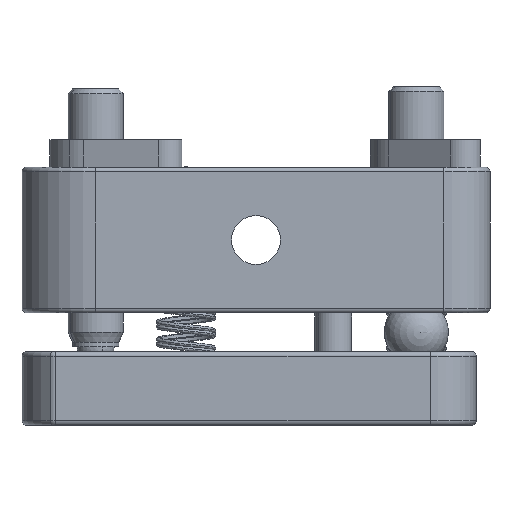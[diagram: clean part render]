
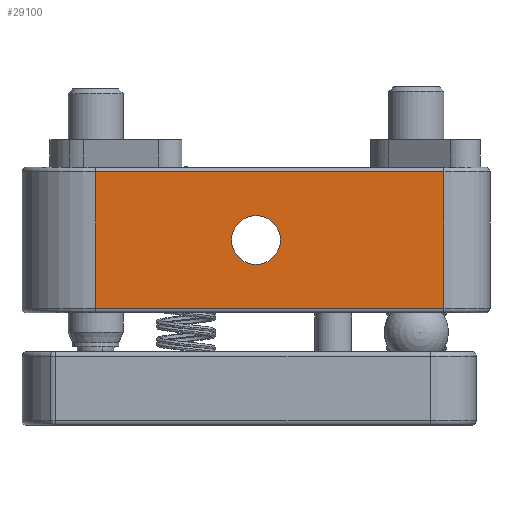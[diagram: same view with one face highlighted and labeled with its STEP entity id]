
A CAD part, left-side view. The second image highlights one B-rep face of the part: STEP entity #29100.
In plain terms, the highlighted planar face has unit normal (-1, 0, 0).
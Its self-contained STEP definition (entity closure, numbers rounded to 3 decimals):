
#136 = CARTESIAN_POINT ( 'NONE',  ( 31.252, 53.266, -50.889 ) ) ;
#536 = CARTESIAN_POINT ( 'NONE',  ( 31.252, 70.666, -58.289 ) ) ;
#685 = EDGE_LOOP ( 'NONE', ( #10775, #11243 ) ) ;
#1958 = DIRECTION ( 'NONE',  ( 0., 0., -1. ) ) ;
#2181 = LINE ( 'NONE', #11838, #26701 ) ;
#2589 = EDGE_CURVE ( 'NONE', #16082, #23708, #2739, .T. ) ;
#2644 = CARTESIAN_POINT ( 'NONE',  ( 31.252, 53.266, -48.239 ) ) ;
#2739 = LINE ( 'NONE', #12408, #18900 ) ;
#3822 = CARTESIAN_POINT ( 'NONE',  ( 31.252, 70.666, -42.989 ) ) ;
#5195 = ORIENTED_EDGE ( 'NONE', *, *, #26126, .T. ) ;
#6188 = FACE_BOUND ( 'NONE', #685, .T. ) ;
#6740 = CIRCLE ( 'NONE', #24472, 2.65 ) ;
#8801 = DIRECTION ( 'NONE',  ( -1., 0., 0. ) ) ;
#9094 = AXIS2_PLACEMENT_3D ( 'NONE', #3822, #13513, #23199 ) ;
#9794 = DIRECTION ( 'NONE',  ( -1., 0., 0. ) ) ;
#10184 = DIRECTION ( 'NONE',  ( 0., -1., 0. ) ) ;
#10421 = VECTOR ( 'NONE', #1958, 1000. ) ;
#10775 = ORIENTED_EDGE ( 'NONE', *, *, #26518, .F. ) ;
#10807 = VECTOR ( 'NONE', #10184, 1000. ) ;
#11243 = ORIENTED_EDGE ( 'NONE', *, *, #17308, .F. ) ;
#11838 = CARTESIAN_POINT ( 'NONE',  ( 31.252, 70.666, -43.489 ) ) ;
#11863 = VERTEX_POINT ( 'NONE', #12116 ) ;
#12116 = CARTESIAN_POINT ( 'NONE',  ( 31.252, 70.666, -43.489 ) ) ;
#12408 = CARTESIAN_POINT ( 'NONE',  ( 31.252, 32.866, -42.989 ) ) ;
#12526 = VERTEX_POINT ( 'NONE', #2644 ) ;
#13506 = CIRCLE ( 'NONE', #31261, 2.65 ) ;
#13513 = DIRECTION ( 'NONE',  ( 1., 0., 0. ) ) ;
#14024 = LINE ( 'NONE', #23703, #10421 ) ;
#15874 = FACE_OUTER_BOUND ( 'NONE', #16419, .T. ) ;
#16082 = VERTEX_POINT ( 'NONE', #25203 ) ;
#16419 = EDGE_LOOP ( 'NONE', ( #5195, #17387, #21098, #19252 ) ) ;
#17308 = EDGE_CURVE ( 'NONE', #12526, #26880, #6740, .T. ) ;
#17387 = ORIENTED_EDGE ( 'NONE', *, *, #20086, .T. ) ;
#18497 = DIRECTION ( 'NONE',  ( 0., 0., -1. ) ) ;
#18900 = VECTOR ( 'NONE', #22107, 1000. ) ;
#19252 = ORIENTED_EDGE ( 'NONE', *, *, #27221, .T. ) ;
#19470 = DIRECTION ( 'NONE',  ( 0., 0., -1. ) ) ;
#20086 = EDGE_CURVE ( 'NONE', #21867, #23708, #22255, .T. ) ;
#21098 = ORIENTED_EDGE ( 'NONE', *, *, #2589, .F. ) ;
#21548 = DIRECTION ( 'NONE',  ( 0., 1., 0. ) ) ;
#21867 = VERTEX_POINT ( 'NONE', #29701 ) ;
#22107 = DIRECTION ( 'NONE',  ( 0., 0., -1. ) ) ;
#22255 = LINE ( 'NONE', #536, #10807 ) ;
#23199 = DIRECTION ( 'NONE',  ( 0., 0., 1. ) ) ;
#23703 = CARTESIAN_POINT ( 'NONE',  ( 31.252, 70.666, -42.989 ) ) ;
#23708 = VERTEX_POINT ( 'NONE', #25488 ) ;
#24409 = CARTESIAN_POINT ( 'NONE',  ( 31.252, 53.266, -53.539 ) ) ;
#24472 = AXIS2_PLACEMENT_3D ( 'NONE', #136, #9794, #19470 ) ;
#25203 = CARTESIAN_POINT ( 'NONE',  ( 31.252, 32.866, -43.489 ) ) ;
#25488 = CARTESIAN_POINT ( 'NONE',  ( 31.252, 32.866, -58.289 ) ) ;
#25563 = PLANE ( 'NONE',  #9094 ) ;
#26126 = EDGE_CURVE ( 'NONE', #11863, #21867, #14024, .T. ) ;
#26518 = EDGE_CURVE ( 'NONE', #26880, #12526, #13506, .T. ) ;
#26701 = VECTOR ( 'NONE', #21548, 1000. ) ;
#26880 = VERTEX_POINT ( 'NONE', #24409 ) ;
#27221 = EDGE_CURVE ( 'NONE', #16082, #11863, #2181, .T. ) ;
#29100 = ADVANCED_FACE ( 'NONE', ( #6188, #15874 ), #25563, .F. ) ;
#29701 = CARTESIAN_POINT ( 'NONE',  ( 31.252, 70.666, -58.289 ) ) ;
#30580 = CARTESIAN_POINT ( 'NONE',  ( 31.252, 53.266, -50.889 ) ) ;
#31261 = AXIS2_PLACEMENT_3D ( 'NONE', #30580, #8801, #18497 ) ;
